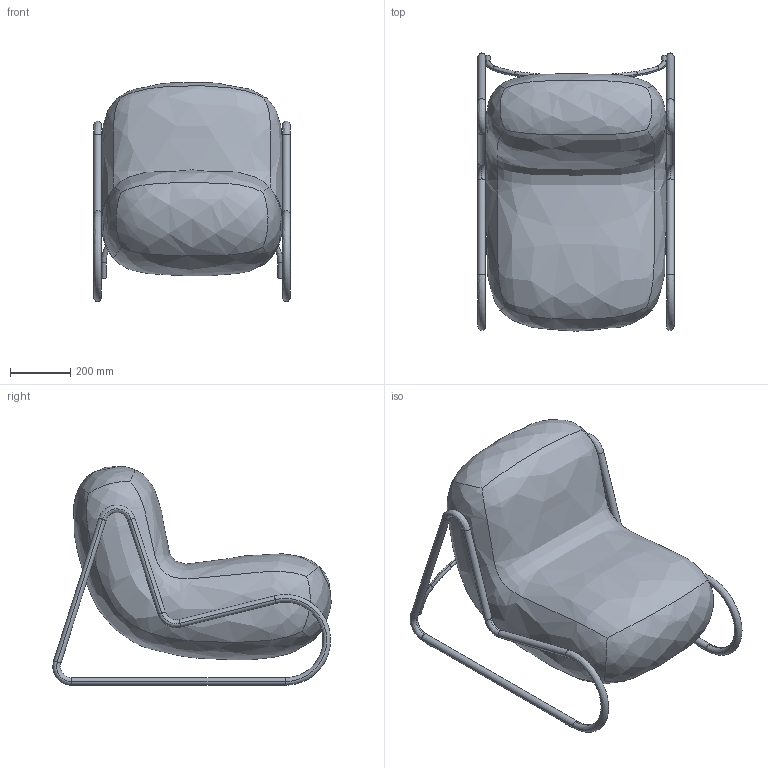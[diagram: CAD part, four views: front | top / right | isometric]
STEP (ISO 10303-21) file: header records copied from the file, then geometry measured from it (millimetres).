
FILE_DESCRIPTION(/* description */ (''),/* implementation_level */ '2;1');
FILE_NAME(/* name */ 'Boho-Chair_NORR11',/* time_stamp */ '2024-10-17T11:30:36+02:00',/* author */ (''),/* organization */ (''),/* preprocessor_version */ 'ST-DEVELOPER v19.2',/* originating_system */ 'Rhino 8.12',/* authorisation */ '');
FILE_SCHEMA (('CONFIG_CONTROL_DESIGN'));
Length unit declared in the file: millimetre
Products named in the file (1): Document
Bounding box: 649.58 x 921.8 x 726.09 mm (x, y, z)
Volume: 161839690.9 mm3; surface area: 2186945 mm2
Topology: 8 solids, 8 shells, 94 faces, 194 edges, 112 vertices
Faces by surface type: bspline 44, cylinder 32, plane 18
Entity records: 7242 total; most frequent: CARTESIAN_POINT 5370, ORIENTED_EDGE 388, DIRECTION 274, EDGE_CURVE 194, AXIS2_PLACEMENT_3D 162, VERTEX_POINT 112, TRIMMED_CURVE 110, CIRCLE 110
